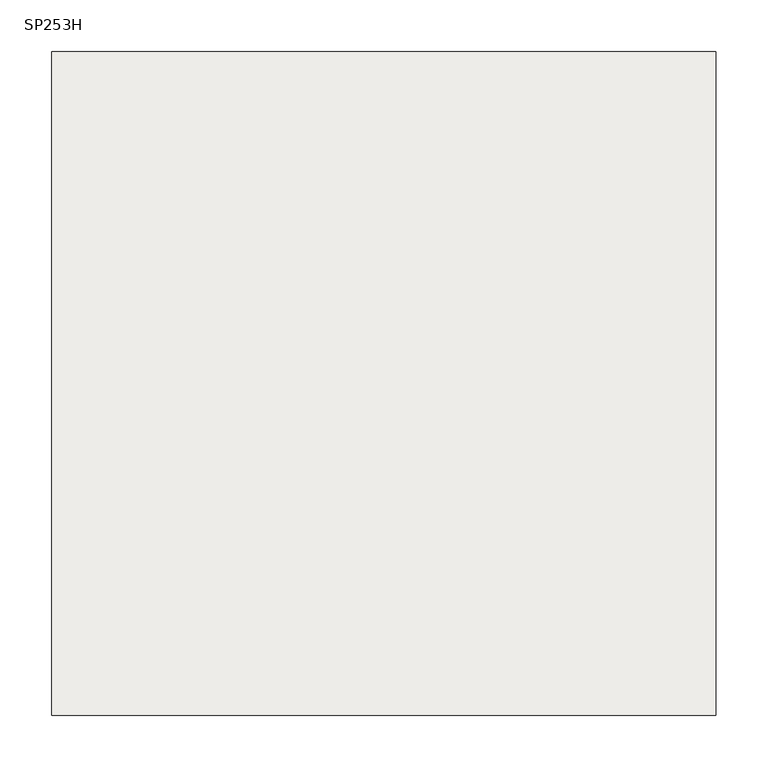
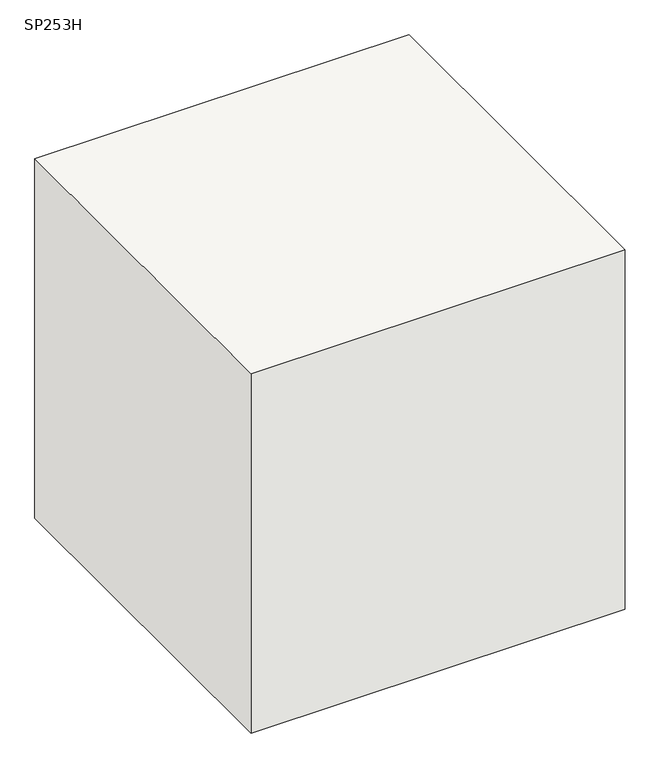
"""IFC4 building model written with IfcOpenShell, lengths in millimetres: slab geometry, 柱形_SP : SP253H."""

from ifc_helpers import new_model, si_unit, frame, origin, place, context, project, spatial, polyline, outline, extrude, source, transform, mapped, element, save


def sp253h_21547eb5(model_context):
    return source(origin(), model_context, "Body", "SweptSolid", [
        extrude(outline(polyline([(320.0, 320.0), (320.0, -320.0), (-320.0, -320.0), (-320.0, 320.0), (320.0, 320.0)])), frame((0.0, 0.0, -650.0), z_axis=(0.0, 0.0, 1.0), x_axis=(1.0, 0.0, 0.0)), (0.0, 0.0, 1.0), 650.0),
    ])


if __name__ == "__main__":
    model = new_model("IFC4")
    model_context = context("Model", 3, world=origin())
    ifc_project = project(units=[si_unit("LENGTHUNIT", "METRE", prefix="MILLI")], contexts=[model_context])
    site = spatial("IfcSite", under=ifc_project)
    building = spatial("IfcBuilding", under=site)
    placement = place(None, origin())
    sp253h_shape = sp253h_21547eb5(model_context)
    element("IfcSlab", 1, ObjectType="柱形_SP : SP253H", at=placement, inside=building, context=model_context, shape_type="MappedRepresentation", body=[
        mapped(sp253h_shape, transform((0.0, 0.0, 0.0), x_axis=(1.0, 0.0, 0.0), y_axis=(0.0, 1.0, 0.0), z_axis=(0.0, 0.0, 1.0))),
    ])
    save(model, "model.ifc")
